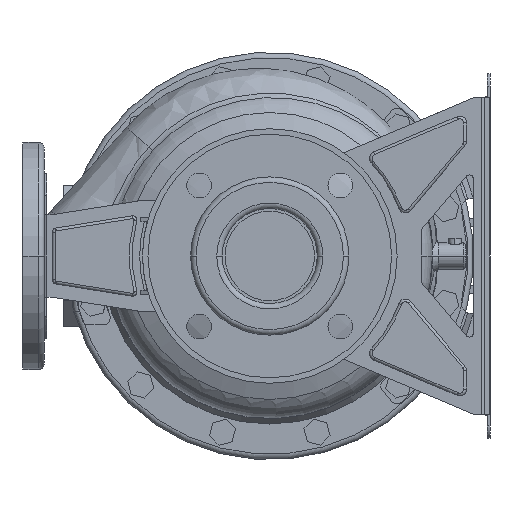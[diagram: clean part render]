
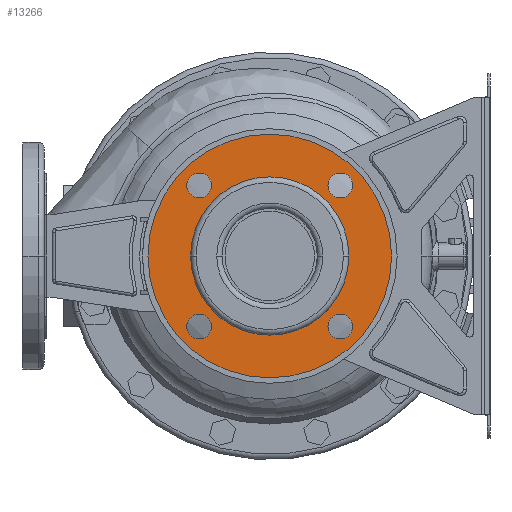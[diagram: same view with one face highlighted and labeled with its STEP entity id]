
A CAD part, left-side view. The second image highlights one B-rep face of the part: STEP entity #13266.
In plain terms, the highlighted planar face has unit normal (-1, 0, 0).
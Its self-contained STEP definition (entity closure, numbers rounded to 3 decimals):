
#12599=CARTESIAN_POINT('',(12.,0.,0.));
#12600=DIRECTION('',(-1.,0.,0.));
#12601=DIRECTION('',(0.,1.,0.));
#12602=AXIS2_PLACEMENT_3D('',#12599,#12600,#12601);
#12607=CARTESIAN_POINT('',(12.,0.,0.));
#12608=DIRECTION('',(1.,0.,0.));
#12609=DIRECTION('',(0.,1.,0.));
#12610=AXIS2_PLACEMENT_3D('',#12607,#12608,#12609);
#12615=CARTESIAN_POINT('',(12.,-51.265,51.265));
#12616=DIRECTION('',(1.,0.,0.));
#12617=DIRECTION('',(0.,1.,0.));
#12618=AXIS2_PLACEMENT_3D('',#12615,#12616,#12617);
#12623=CARTESIAN_POINT('',(12.,-51.265,51.265));
#12624=DIRECTION('',(1.,0.,0.));
#12625=DIRECTION('',(0.,-1.,0.));
#12626=AXIS2_PLACEMENT_3D('',#12623,#12624,#12625);
#12631=CARTESIAN_POINT('',(12.,-51.265,-51.265));
#12632=DIRECTION('',(1.,0.,0.));
#12633=DIRECTION('',(0.,0.,1.));
#12634=AXIS2_PLACEMENT_3D('',#12631,#12632,#12633);
#12639=CARTESIAN_POINT('',(12.,-51.265,-51.265));
#12640=DIRECTION('',(1.,0.,0.));
#12641=DIRECTION('',(0.,0.,-1.));
#12642=AXIS2_PLACEMENT_3D('',#12639,#12640,#12641);
#12647=CARTESIAN_POINT('',(12.,51.265,-51.265));
#12648=DIRECTION('',(1.,0.,0.));
#12649=DIRECTION('',(0.,-1.,0.));
#12650=AXIS2_PLACEMENT_3D('',#12647,#12648,#12649);
#12655=CARTESIAN_POINT('',(12.,51.265,-51.265));
#12656=DIRECTION('',(1.,0.,0.));
#12657=DIRECTION('',(0.,1.,0.));
#12658=AXIS2_PLACEMENT_3D('',#12655,#12656,#12657);
#12663=CARTESIAN_POINT('',(12.,51.265,51.265));
#12664=DIRECTION('',(1.,0.,0.));
#12665=DIRECTION('',(0.,0.,-1.));
#12666=AXIS2_PLACEMENT_3D('',#12663,#12664,#12665);
#12671=CARTESIAN_POINT('',(12.,51.265,51.265));
#12672=DIRECTION('',(1.,0.,0.));
#12673=DIRECTION('',(0.,0.,1.));
#12674=AXIS2_PLACEMENT_3D('',#12671,#12672,#12673);
#12679=CARTESIAN_POINT('',(12.,0.,0.));
#12680=DIRECTION('',(1.,0.,0.));
#12681=DIRECTION('',(0.,1.,0.));
#12682=AXIS2_PLACEMENT_3D('',#12679,#12680,#12681);
#12701=CARTESIAN_POINT('',(12.,0.,0.));
#12702=DIRECTION('',(-1.,0.,0.));
#12703=DIRECTION('',(0.,1.,0.));
#12704=AXIS2_PLACEMENT_3D('',#12701,#12702,#12703);
#12866=CARTESIAN_POINT('',(12.,88.5,0.));
#12868=VERTEX_POINT('',#12866);
#12869=CARTESIAN_POINT('',(12.,57.5,0.));
#12871=VERTEX_POINT('',#12869);
#12898=CARTESIAN_POINT('',(12.,-88.5,0.));
#12900=VERTEX_POINT('',#12898);
#12901=CARTESIAN_POINT('',(12.,-57.5,0.));
#12903=VERTEX_POINT('',#12901);
#12913=CARTESIAN_POINT('',(12.,-42.265,51.265));
#12914=CARTESIAN_POINT('',(12.,-60.265,51.265));
#12915=VERTEX_POINT('',#12913);
#12916=VERTEX_POINT('',#12914);
#12921=CARTESIAN_POINT('',(12.,-51.265,-42.265));
#12922=CARTESIAN_POINT('',(12.,-51.265,-60.265));
#12923=VERTEX_POINT('',#12921);
#12924=VERTEX_POINT('',#12922);
#12929=CARTESIAN_POINT('',(12.,42.265,-51.265));
#12930=CARTESIAN_POINT('',(12.,60.265,-51.265));
#12931=VERTEX_POINT('',#12929);
#12932=VERTEX_POINT('',#12930);
#12937=CARTESIAN_POINT('',(12.,51.265,42.265));
#12938=CARTESIAN_POINT('',(12.,51.265,60.265));
#12939=VERTEX_POINT('',#12937);
#12940=VERTEX_POINT('',#12938);
#13227=CARTESIAN_POINT('',(12.,0.,0.));
#13228=DIRECTION('',(1.,0.,0.));
#13229=DIRECTION('',(0.,-1.,0.));
#13230=AXIS2_PLACEMENT_3D('',#13227,#13228,#13229);
#13231=PLANE('',#13230);
#13232=ORIENTED_EDGE('',*,*,#13220,.F.);
#13233=ORIENTED_EDGE('',*,*,#13209,.T.);
#13234=EDGE_LOOP('',(#13232,#13233));
#13235=FACE_OUTER_BOUND('',#13234,.F.);
#13237=ORIENTED_EDGE('',*,*,#13236,.F.);
#13239=ORIENTED_EDGE('',*,*,#13238,.T.);
#13240=EDGE_LOOP('',(#13237,#13239));
#13241=FACE_BOUND('',#13240,.F.);
#13243=ORIENTED_EDGE('',*,*,#13242,.F.);
#13245=ORIENTED_EDGE('',*,*,#13244,.F.);
#13246=EDGE_LOOP('',(#13243,#13245));
#13247=FACE_BOUND('',#13246,.F.);
#13249=ORIENTED_EDGE('',*,*,#13248,.F.);
#13251=ORIENTED_EDGE('',*,*,#13250,.F.);
#13252=EDGE_LOOP('',(#13249,#13251));
#13253=FACE_BOUND('',#13252,.F.);
#13255=ORIENTED_EDGE('',*,*,#13254,.F.);
#13257=ORIENTED_EDGE('',*,*,#13256,.F.);
#13258=EDGE_LOOP('',(#13255,#13257));
#13259=FACE_BOUND('',#13258,.F.);
#13261=ORIENTED_EDGE('',*,*,#13260,.F.);
#13263=ORIENTED_EDGE('',*,*,#13262,.F.);
#13264=EDGE_LOOP('',(#13261,#13263));
#13265=FACE_BOUND('',#13264,.F.);
#12603=CIRCLE('',#12602,88.5);
#12611=CIRCLE('',#12610,88.5);
#12619=CIRCLE('',#12618,9.);
#12627=CIRCLE('',#12626,9.);
#12635=CIRCLE('',#12634,9.);
#12643=CIRCLE('',#12642,9.);
#12651=CIRCLE('',#12650,9.);
#12659=CIRCLE('',#12658,9.);
#12667=CIRCLE('',#12666,9.);
#12675=CIRCLE('',#12674,9.);
#12683=CIRCLE('',#12682,57.5);
#12705=CIRCLE('',#12704,57.5);
#13209=EDGE_CURVE('',#12868,#12900,#12611,.T.);
#13220=EDGE_CURVE('',#12868,#12900,#12603,.T.);
#13236=EDGE_CURVE('',#12871,#12903,#12683,.T.);
#13238=EDGE_CURVE('',#12871,#12903,#12705,.T.);
#13242=EDGE_CURVE('',#12915,#12916,#12619,.T.);
#13244=EDGE_CURVE('',#12916,#12915,#12627,.T.);
#13248=EDGE_CURVE('',#12923,#12924,#12635,.T.);
#13250=EDGE_CURVE('',#12924,#12923,#12643,.T.);
#13254=EDGE_CURVE('',#12931,#12932,#12651,.T.);
#13256=EDGE_CURVE('',#12932,#12931,#12659,.T.);
#13260=EDGE_CURVE('',#12939,#12940,#12667,.T.);
#13262=EDGE_CURVE('',#12940,#12939,#12675,.T.);
#13266=ADVANCED_FACE('',(#13235,#13241,#13247,#13253,#13259,#13265),#13231,.F.);
